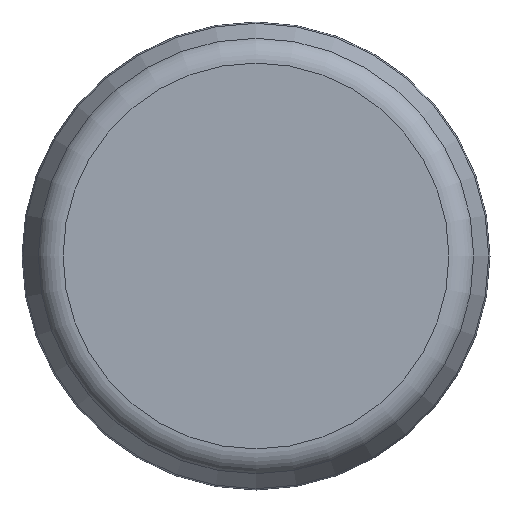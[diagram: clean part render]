
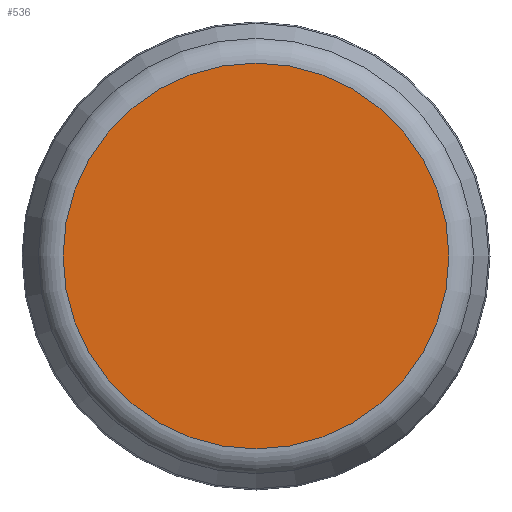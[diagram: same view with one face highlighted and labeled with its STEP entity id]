
A CAD part, left-side view. The second image highlights one B-rep face of the part: STEP entity #536.
In plain terms, the highlighted planar face has unit normal (-1, 0, 0).
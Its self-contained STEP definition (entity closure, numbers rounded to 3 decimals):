
#70=CIRCLE('',#624,1.059);
#71=CIRCLE('',#625,1.059);
#92=PLANE('',#623);
#114=FACE_OUTER_BOUND('',#142,.T.);
#142=EDGE_LOOP('',(#471,#472));
#245=VERTEX_POINT('',#1087);
#246=VERTEX_POINT('',#1088);
#324=EDGE_CURVE('',#245,#246,#70,.T.);
#325=EDGE_CURVE('',#246,#245,#71,.T.);
#471=ORIENTED_EDGE('',*,*,#324,.F.);
#472=ORIENTED_EDGE('',*,*,#325,.F.);
#536=ADVANCED_FACE('',(#114),#92,.T.);
#623=AXIS2_PLACEMENT_3D('',#1086,#786,#787);
#624=AXIS2_PLACEMENT_3D('',#1089,#788,#789);
#625=AXIS2_PLACEMENT_3D('',#1090,#790,#791);
#786=DIRECTION('center_axis',(-1.,0.,0.));
#787=DIRECTION('ref_axis',(0.,0.,1.));
#788=DIRECTION('center_axis',(1.,0.,0.));
#789=DIRECTION('ref_axis',(0.,-1.,0.));
#790=DIRECTION('center_axis',(1.,0.,0.));
#791=DIRECTION('ref_axis',(0.,-1.,0.));
#1086=CARTESIAN_POINT('Origin',(0.,-0.53,
0.));
#1087=CARTESIAN_POINT('',(0.,-1.059,0.));
#1088=CARTESIAN_POINT('',(0.,0.,1.059));
#1089=CARTESIAN_POINT('Origin',(0.,0.,0.));
#1090=CARTESIAN_POINT('Origin',(0.,0.,0.));
